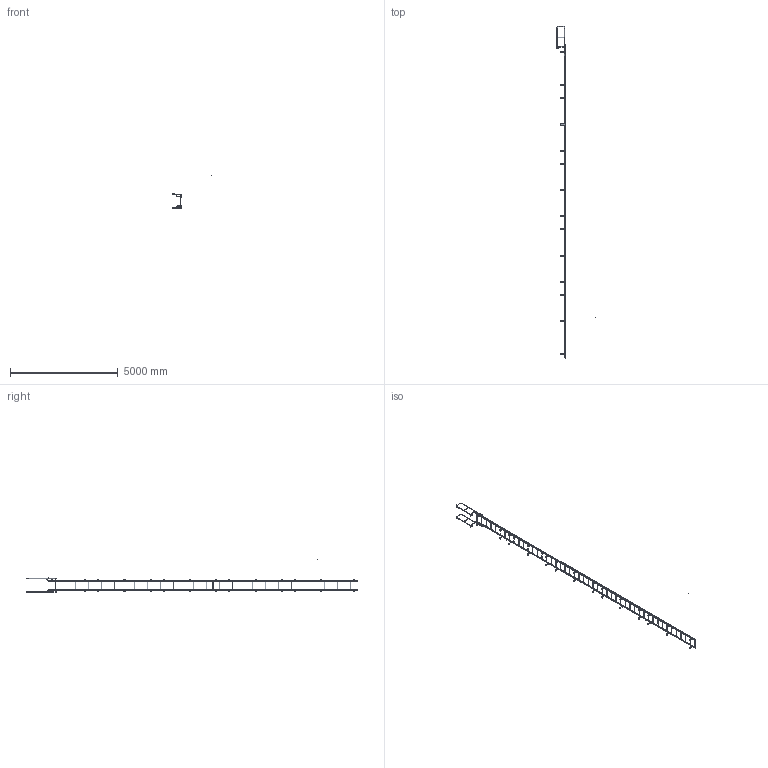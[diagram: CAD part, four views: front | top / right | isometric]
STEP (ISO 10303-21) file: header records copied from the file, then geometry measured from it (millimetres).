
FILE_DESCRIPTION(/* description */ (''),/* implementation_level */ '2;1');
FILE_NAME(/* name */ 'P:\MIKEL & KAREN\3570394 F48W SIMPLIFIED PART.stp',/* time_stamp */ '2018-07-02T16:23:31-04:00',/* author */ ('stephanie'),/* organization */ (''),/* preprocessor_version */ 'ST-DEVELOPER v16.1',/* originating_system */ 'Autodesk Inventor 2016',/* authorisation */ '');
FILE_SCHEMA (('AUTOMOTIVE_DESIGN { 1 0 10303 214 3 1 1 }'));
Length unit declared in the file: centimetre
Products named in the file (1): 3570394 F48W SIMPLIFIED PART
Bounding box: 1853.36 x 15440.02 x 1546.6 mm (x, y, z)
Volume: 26403512.3 mm3; surface area: 8703215.6 mm2
Topology: 57 solids, 57 shells, 921 faces, 2475 edges, 1632 vertices
Faces by surface type: plane 536, cylinder 377, torus 8
Full cylindrical faces by diameter (mm): 0.254 x1, 10.319 x4, 14.287 x36, 19.05 x48, 22.098 x10, 22.225 x96, 25.4 x10
Entity records: 28532 total; most frequent: CARTESIAN_POINT 4944, DIRECTION 4766, ORIENTED_EDGE 4260, EDGE_CURVE 2126, AXIS2_PLACEMENT_3D 1734, VERTEX_POINT 1496, EDGE_LOOP 1412, LINE 1298
